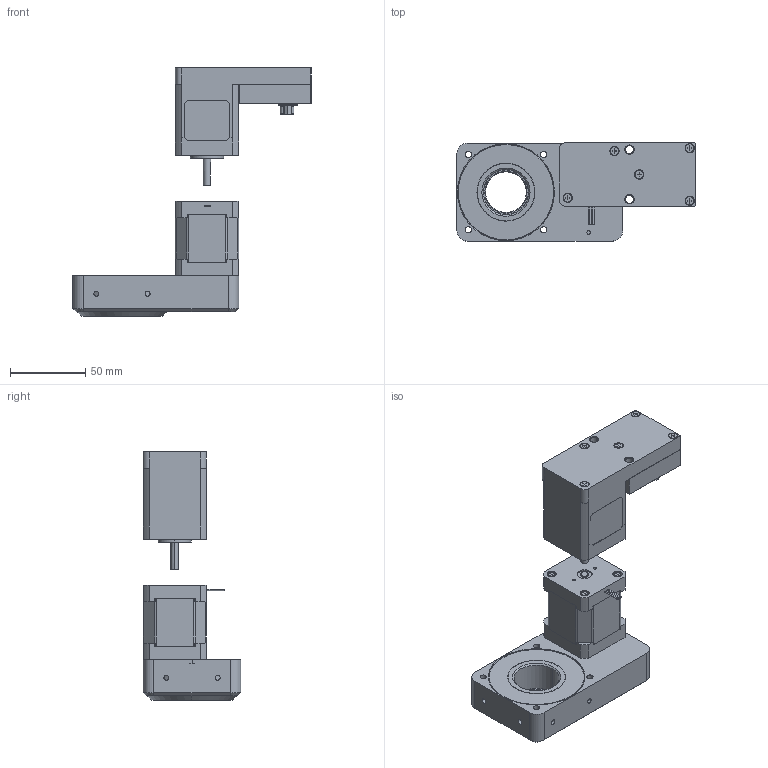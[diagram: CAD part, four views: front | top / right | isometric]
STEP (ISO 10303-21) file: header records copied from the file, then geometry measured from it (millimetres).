
FILE_DESCRIPTION (( 'STEP AP214' ), '1' );
FILE_NAME ('MDT360060-QN-B-M-S.STEP', '2025-02-21T07:32:33', ( '' ), ( '' ), 'SwSTEP 2.0', 'SolidWorks 2022', '' );
FILE_SCHEMA (( 'AUTOMOTIVE_DESIGN' ));
Length unit declared in the file: millimetre
Products named in the file (4): MDT360060-QN-B; MDT360060-QN-B-M-S; NSM17-OR; GSM17
Assembly tree (3 placements, depth 2):
  MDT360060-QN-B-M-S
    NSM17-OR
    GSM17
    MDT360060-QN-B
Bounding box: 158 x 65 x 164.94 mm (x, y, z)
Volume: 150415 mm3; surface area: 90788.5 mm2
Topology: 9 solids, 41 shells, 1156 faces, 2839 edges, 1792 vertices
Faces by surface type: plane 456, cylinder 439, cone 154, torus 51, sphere 28, bspline 28
Entity records: 50721 total; most frequent: CARTESIAN_POINT 10963, DIRECTION 5585, ORIENTED_EDGE 5448, EDGE_CURVE 2742, AXIS2_PLACEMENT_3D 2130, VERTEX_POINT 1765, EDGE_LOOP 1326, VECTOR 1325
